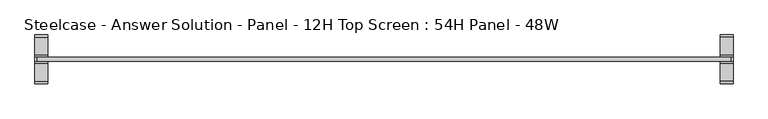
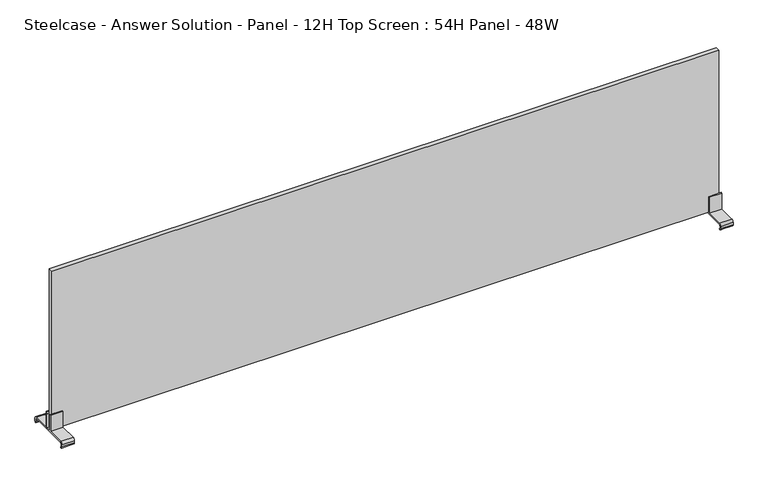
"""IFC4 building model written with IfcOpenShell, lengths in millimetres: furniture geometry, Steelcase - Answer Solution - Panel - 12H Top Screen : 54H Panel - 48W."""

import ifcopenshell
import ifcopenshell.guid

model = None  # the IFC model being written
_history = None  # IfcOwnerHistory: only IFC2X3 demands one
_inside = {}  # id of a spatial element -> (the spatial element, [elements in it])
_under = {}  # id of a project, library or spatial element -> (it, [spatial elements below it])
_declared = {}  # id of a project -> (the project, [libraries it declares])
_typed = {}  # id of a type object -> (the type object, [elements of that type])
_made_of = {}  # id of a material, layer set ... -> (it, [elements and type objects made of it])


def new_model(schema):
    """Start an empty IFC model of exactly this schema.

    Asked for "IFC4X3", IfcOpenShell would pick the latest addendum, in which some entities
    have other attributes; the version numbers below select the first issue.
    IFC2X3 requires an IfcOwnerHistory on every rooted entity: one is made here for all.
    """
    global model, _history
    if schema == "IFC4X3":
        model = ifcopenshell.file(schema_version=(4, 3, 0, 0))
    else:
        model = ifcopenshell.file(schema=schema)
    _inside.clear()
    _under.clear()
    _declared.clear()
    _typed.clear()
    _made_of.clear()
    _history = None
    if model.schema == "IFC2X3":
        org = make("IfcOrganization", Name="unknown")
        user = make(
            "IfcPersonAndOrganization",
            ThePerson=make("IfcPerson", FamilyName="unknown"),
            TheOrganization=org,
        )
        app = make(
            "IfcApplication",
            ApplicationDeveloper=org,
            Version="unknown",
            ApplicationFullName="unknown",
            ApplicationIdentifier="unknown",
        )
        _history = make(
            "IfcOwnerHistory",
            OwningUser=user,
            OwningApplication=app,
            ChangeAction="ADDED",
            CreationDate=0,
        )
    return model


def make(cls, **values):
    """One entity of the class cls with the attributes given. An attribute that is None is left unset."""
    return model.create_entity(
        cls, **{name: value for name, value in values.items() if value is not None}
    )


def rooted(cls, **values):
    """An entity with a GlobalId (a new one), such as an element, a storey or a relation."""
    return make(cls, GlobalId=ifcopenshell.guid.new(), OwnerHistory=_history, **values)


def si_unit(unit_type, name, prefix=None):
    """IfcSIUnit, for example si_unit("LENGTHUNIT", "METRE", prefix="MILLI")."""
    return make("IfcSIUnit", UnitType=unit_type, Prefix=prefix, Name=name)


def assignment(units):
    """IfcUnitAssignment: the units of a project."""
    return None if units is None else make("IfcUnitAssignment", Units=units)


def point(xyz):
    """IfcCartesianPoint."""
    return None if xyz is None else make("IfcCartesianPoint", Coordinates=xyz)


def direction(xyz):
    """IfcDirection."""
    return None if xyz is None else make("IfcDirection", DirectionRatios=xyz)


def frame(location, z_axis=None, x_axis=None):
    """IfcAxis2Placement3D, a coordinate frame: its origin and axes. An axis left out is left unset."""
    return make(
        "IfcAxis2Placement3D",
        Location=point(location),
        Axis=direction(z_axis),
        RefDirection=direction(x_axis),
    )


def frame_2d(location, x_axis=None):
    """IfcAxis2Placement2D, a coordinate frame in the plane: its origin and x axis."""
    return make(
        "IfcAxis2Placement2D", Location=point(location), RefDirection=direction(x_axis)
    )


def origin():
    """The frame at (0, 0, 0) with its axes left unset."""
    return frame((0.0, 0.0, 0.0))


def place(relative_to, where):
    """IfcLocalPlacement: puts the frame where relative to a parent placement (None: the world)."""
    return make(
        "IfcLocalPlacement", PlacementRelTo=relative_to, RelativePlacement=where
    )


def context(
    kind, dimensions, precision=None, world=None, true_north=None, identifier=None
):
    """IfcGeometricRepresentationContext, for example the 3D "Model" context."""
    return make(
        "IfcGeometricRepresentationContext",
        ContextIdentifier=identifier,
        ContextType=kind,
        CoordinateSpaceDimension=dimensions,
        Precision=precision,
        WorldCoordinateSystem=world,
        TrueNorth=true_north,
    )


def project(units=None, contexts=None):
    """IfcProject with its units and contexts."""
    return rooted(
        "IfcProject",
        Name="project",
        RepresentationContexts=contexts,
        UnitsInContext=assignment(units),
    )


def spatial(cls, under=None, at=None, **own):
    """A site, building, storey or space (cls), placed at a placement, below another one or the project."""
    s = rooted(cls, ObjectPlacement=at, **own)
    if under is not None:
        _under.setdefault(under.id(), (under, []))[1].append(s)
    return s


def polyline(points):
    """IfcPolyline through the points."""
    return make("IfcPolyline", Points=[point(p) for p in points])


def circle_curve(where, radius):
    """IfcCircle in the frame where."""
    return make("IfcCircle", Position=where, Radius=radius)


def trimmed(basis, trim1, trim2, sense, master):
    """IfcTrimmedCurve: the piece of a basis curve between two trims."""
    return make(
        "IfcTrimmedCurve",
        BasisCurve=basis,
        Trim1=trim1,
        Trim2=trim2,
        SenseAgreement=sense,
        MasterRepresentation=master,
    )


def segment(curve, same_sense, transition):
    """IfcCompositeCurveSegment."""
    return make(
        "IfcCompositeCurveSegment",
        Transition=transition,
        SameSense=same_sense,
        ParentCurve=curve,
    )


def composite_curve(segments, self_intersect=None):
    """IfcCompositeCurve: segments joined end to end."""
    return make("IfcCompositeCurve", Segments=segments, SelfIntersect=self_intersect)


def outline(outer, holes=None, kind="AREA"):
    """IfcArbitraryClosedProfileDef: a profile drawn as a closed curve; with holes, ...WithVoids."""
    if holes is None:
        return make("IfcArbitraryClosedProfileDef", ProfileType=kind, OuterCurve=outer)
    return make(
        "IfcArbitraryProfileDefWithVoids",
        ProfileType=kind,
        OuterCurve=outer,
        InnerCurves=holes,
    )


def extrude(swept, where, along, depth):
    """IfcExtrudedAreaSolid: the profile swept, set in the frame where, extruded along a direction by depth."""
    return make(
        "IfcExtrudedAreaSolid",
        SweptArea=swept,
        Position=where,
        ExtrudedDirection=direction(along),
        Depth=depth,
    )


def shape(context_of_items, identifier, shape_type, items):
    """IfcShapeRepresentation: the items that make up one representation, for example the "Body"."""
    return make(
        "IfcShapeRepresentation",
        ContextOfItems=context_of_items,
        RepresentationIdentifier=identifier,
        RepresentationType=shape_type,
        Items=items,
    )


def source(mapping_origin, context_of_items, identifier, shape_type, items):
    """IfcRepresentationMap: a shape defined once, which mapped items show again and again."""
    return make(
        "IfcRepresentationMap",
        MappingOrigin=mapping_origin,
        MappedRepresentation=shape(context_of_items, identifier, shape_type, items),
    )


def transform(
    local_origin,
    x_axis=None,
    y_axis=None,
    z_axis=None,
    scale=None,
    scale2=None,
    scale3=None,
    uniform=True,
):
    """IfcCartesianTransformationOperator3D, or its non-uniform kind. x_axis, y_axis, z_axis: its Axis1, 2, 3."""
    if uniform:
        return make(
            "IfcCartesianTransformationOperator3D",
            Axis1=direction(x_axis),
            Axis2=direction(y_axis),
            LocalOrigin=point(local_origin),
            Scale=scale,
            Axis3=direction(z_axis),
        )
    return make(
        "IfcCartesianTransformationOperator3DnonUniform",
        Axis1=direction(x_axis),
        Axis2=direction(y_axis),
        LocalOrigin=point(local_origin),
        Scale=scale,
        Axis3=direction(z_axis),
        Scale2=scale2,
        Scale3=scale3,
    )


def mapped(mapping_source, mapping_target):
    """IfcMappedItem: shows the shape of a source again, moved by a transform."""
    return make(
        "IfcMappedItem", MappingSource=mapping_source, MappingTarget=mapping_target
    )


def made_of(thing, what):
    """Note that an element or type object is made of a material, layer set ...; save() writes the relation."""
    if what is not None:
        _made_of.setdefault(what.id(), (what, []))[1].append(thing)
    return thing


def element(
    cls,
    number,
    at=None,
    inside=None,
    cuts=None,
    type_object=None,
    material=None,
    context=None,
    identifier="Body",
    shape_type=None,
    held_by="IfcProductDefinitionShape",
    body=None,
    shapes=None,
    **own,
):
    """One element of the class cls, such as IfcWall. Its Tag is "e" and its number.

    at: its placement. inside: the storey or other place that contains it. cuts: it is an
    opening in that element (IfcRelVoidsElement). A single representation is given by context,
    identifier, shape_type and body (its items); several are given by shapes. held_by: the class
    of the entity that holds the representations. save() writes the other relations.
    """
    e = rooted(cls, Tag="e%d" % number, ObjectPlacement=at, **own)
    if body is not None:
        shapes = [shape(context, identifier, shape_type, body)]
    if shapes is not None:
        e.Representation = make(held_by, Representations=shapes)
    if inside is not None:
        _inside.setdefault(inside.id(), (inside, []))[1].append(e)
    if cuts is not None:
        rooted(
            "IfcRelVoidsElement", RelatingBuildingElement=cuts, RelatedOpeningElement=e
        )
    if type_object is not None:
        _typed.setdefault(type_object.id(), (type_object, []))[1].append(e)
    return made_of(e, material)


def aggregate(whole, parts):
    """IfcRelAggregates: a whole, such as a stair, and the parts it consists of."""
    return rooted("IfcRelAggregates", RelatingObject=whole, RelatedObjects=parts)


def save(model, path):
    """Write the relations noted so far, then the file.

    IfcRelAggregates (storeys below a building ...), IfcRelContainedInSpatialStructure (elements
    in a storey), IfcRelDefinesByType, IfcRelAssociatesMaterial and IfcRelDeclares: one each for
    every whole, place, type object, material and project.
    """
    for whole, parts in _under.values():
        aggregate(whole, parts)
    for where, things in _inside.values():
        rooted(
            "IfcRelContainedInSpatialStructure",
            RelatedElements=things,
            RelatingStructure=where,
        )
    for kind, things in _typed.values():
        rooted("IfcRelDefinesByType", RelatedObjects=things, RelatingType=kind)
    for what, things in _made_of.values():
        rooted("IfcRelAssociatesMaterial", RelatedObjects=things, RelatingMaterial=what)
    for by, libraries in _declared.values():
        rooted("IfcRelDeclares", RelatingContext=by, RelatedDefinitions=libraries)
    model.write(path)


def steelcase_answer_solution_panel_12h_top_screen_54h_panel_48w_5b628933(model_context):
    return source(origin(), model_context, "Body", "SweptSolid", [
        extrude(outline(polyline([(605.536, -3.683001), (-605.536, -3.683001), (-605.536, 3.683001), (605.536, 3.683001), (605.536, -3.683001)])), frame((0.0, 0.0, 1379.9819981), z_axis=(0.0, 0.0, 1.0), x_axis=(1.0, 0.0, 0.0)), (0.0, 0.0, 1.0), 304.8),
        extrude(outline(composite_curve([segment(trimmed(circle_curve(frame_2d((38.5445, 1376.045)), 1.905), [point((40.4495, 1376.045))], [point((38.5445, 1377.95))], True, "CARTESIAN"), True, "CONTINUOUS"), segment(polyline([(38.5445, 1377.95), (-38.5445, 1377.95)]), True, "CONTINUOUS"), segment(trimmed(circle_curve(frame_2d((-38.5445, 1376.045)), 1.905), [point((-38.5445, 1377.95))], [point((-40.4495, 1376.045))], True, "CARTESIAN"), True, "CONTINUOUS"), segment(polyline([(-40.4495, 1376.045), (-40.4495, 1371.4341187)]), True, "CONTINUOUS"), segment(trimmed(circle_curve(frame_2d((-38.5445, 1371.4341187)), 1.905), [point((-40.4495, 1371.4341187))], [point((-38.6743328, 1369.5335481))], True, "CARTESIAN"), True, "CONTINUOUS"), segment(polyline([(-38.6743328, 1369.5335481), (-39.2392449, 1367.9535566)]), True, "CONTINUOUS"), segment(trimmed(circle_curve(frame_2d((-38.5459934, 1371.8284569)), 3.9364261), [point((-39.2392449, 1367.9535566))], [point((-42.4824195, 1371.8284569))], False, "CARTESIAN"), True, "CONTINUOUS"), segment(polyline([(-42.4824195, 1371.8284569), (-42.4824195, 1376.0452288)]), True, "CONTINUOUS"), segment(trimmed(circle_curve(frame_2d((-38.5459934, 1376.0452288)), 3.9364261), [point((-42.4824195, 1376.0452288))], [point((-38.5459934, 1379.9816549))], False, "CARTESIAN"), True, "CONTINUOUS"), segment(polyline([(-38.5459934, 1379.9816549), (-6.7310004, 1379.9816549), (-6.7310004, 1410.9699952), (-4.699, 1410.9699952), (-4.699, 1379.9819952), (4.699, 1379.9819952), (4.699, 1410.9700048), (6.7310004, 1410.9700048), (6.7310004, 1379.9816549), (38.5459934, 1379.9816549)]), True, "CONTINUOUS"), segment(trimmed(circle_curve(frame_2d((38.5459934, 1376.0452288)), 3.9364261), [point((38.5459934, 1379.9816549))], [point((42.4824195, 1376.0452288))], False, "CARTESIAN"), True, "CONTINUOUS"), segment(polyline([(42.4824195, 1376.0452288), (42.4824195, 1371.8284569)]), True, "CONTINUOUS"), segment(trimmed(circle_curve(frame_2d((38.5459934, 1371.8284569)), 3.9364261), [point((42.4824195, 1371.8284569))], [point((39.6631716, 1368.0538889))], False, "CARTESIAN"), True, "CONTINUOUS"), segment(polyline([(39.6631716, 1368.0538889), (39.1055128, 1369.6135996)]), True, "CONTINUOUS"), segment(trimmed(circle_curve(frame_2d((38.5445, 1371.4341187)), 1.905), [point((39.1055128, 1369.6135996))], [point((40.4495, 1371.4341187))], True, "CARTESIAN"), True, "CONTINUOUS"), segment(polyline([(40.4495, 1371.4341187), (40.4495, 1376.045)]), True, "CONTINUOUS")], self_intersect=False)), frame((586.994, 0.0, 0.0), z_axis=(1.0, 0.0, 0.0), x_axis=(0.0, 1.0, 0.0)), (0.0, 0.0, 1.0), 22.606),
        extrude(outline(composite_curve([segment(trimmed(circle_curve(frame_2d((38.5445, 1376.045)), 1.905), [point((40.4495, 1376.045))], [point((38.5445, 1377.95))], True, "CARTESIAN"), True, "CONTINUOUS"), segment(polyline([(38.5445, 1377.95), (-38.5445, 1377.95)]), True, "CONTINUOUS"), segment(trimmed(circle_curve(frame_2d((-38.5445, 1376.045)), 1.905), [point((-38.5445, 1377.95))], [point((-40.4495, 1376.045))], True, "CARTESIAN"), True, "CONTINUOUS"), segment(polyline([(-40.4495, 1376.045), (-40.4495, 1371.4341187)]), True, "CONTINUOUS"), segment(trimmed(circle_curve(frame_2d((-38.5445, 1371.4341187)), 1.905), [point((-40.4495, 1371.4341187))], [point((-38.6743328, 1369.5335481))], True, "CARTESIAN"), True, "CONTINUOUS"), segment(polyline([(-38.6743328, 1369.5335481), (-39.2392449, 1367.9535566)]), True, "CONTINUOUS"), segment(trimmed(circle_curve(frame_2d((-38.5459934, 1371.8284569)), 3.9364261), [point((-39.2392449, 1367.9535566))], [point((-42.4824195, 1371.8284569))], False, "CARTESIAN"), True, "CONTINUOUS"), segment(polyline([(-42.4824195, 1371.8284569), (-42.4824195, 1376.0452288)]), True, "CONTINUOUS"), segment(trimmed(circle_curve(frame_2d((-38.5459934, 1376.0452288)), 3.9364261), [point((-42.4824195, 1376.0452288))], [point((-38.5459934, 1379.9816549))], False, "CARTESIAN"), True, "CONTINUOUS"), segment(polyline([(-38.5459934, 1379.9816549), (-6.7310004, 1379.9816549), (-6.7310004, 1410.9699952), (-4.699, 1410.9699952), (-4.699, 1379.9819952), (4.699, 1379.9819952), (4.699, 1410.9700048), (6.7310004, 1410.9700048), (6.7310004, 1379.9816549), (38.5459934, 1379.9816549)]), True, "CONTINUOUS"), segment(trimmed(circle_curve(frame_2d((38.5459934, 1376.0452288)), 3.9364261), [point((38.5459934, 1379.9816549))], [point((42.4824195, 1376.0452288))], False, "CARTESIAN"), True, "CONTINUOUS"), segment(polyline([(42.4824195, 1376.0452288), (42.4824195, 1371.8284569)]), True, "CONTINUOUS"), segment(trimmed(circle_curve(frame_2d((38.5459934, 1371.8284569)), 3.9364261), [point((42.4824195, 1371.8284569))], [point((39.6631716, 1368.0538889))], False, "CARTESIAN"), True, "CONTINUOUS"), segment(polyline([(39.6631716, 1368.0538889), (39.1055128, 1369.6135996)]), True, "CONTINUOUS"), segment(trimmed(circle_curve(frame_2d((38.5445, 1371.4341187)), 1.905), [point((39.1055128, 1369.6135996))], [point((40.4495, 1371.4341187))], True, "CARTESIAN"), True, "CONTINUOUS"), segment(polyline([(40.4495, 1371.4341187), (40.4495, 1376.045)]), True, "CONTINUOUS")], self_intersect=False)), frame((-609.6, 0.0, 0.0), z_axis=(1.0, 0.0, 0.0), x_axis=(0.0, 1.0, 0.0)), (0.0, 0.0, 1.0), 22.606),
    ])


if __name__ == "__main__":
    model = new_model("IFC4")
    model_context = context("Model", 3, world=origin())
    ifc_project = project(units=[si_unit("LENGTHUNIT", "METRE", prefix="MILLI")], contexts=[model_context])
    site = spatial("IfcSite", under=ifc_project)
    building = spatial("IfcBuilding", under=site)
    placement = place(None, origin())
    steelcase_answer_solution_panel_12h_top_screen_54h_panel_48w_shape = steelcase_answer_solution_panel_12h_top_screen_54h_panel_48w_5b628933(model_context)
    element("IfcFurniture", 1, ObjectType="Steelcase - Answer Solution - Panel - 12H Top Screen : 54H Panel - 48W", at=placement, inside=building, context=model_context, shape_type="MappedRepresentation", body=[
        mapped(steelcase_answer_solution_panel_12h_top_screen_54h_panel_48w_shape, transform((0.0, 0.0, 0.0), x_axis=(1.0, 0.0, 0.0), y_axis=(0.0, 1.0, 0.0), z_axis=(0.0, 0.0, 1.0))),
    ])
    save(model, "model.ifc")
